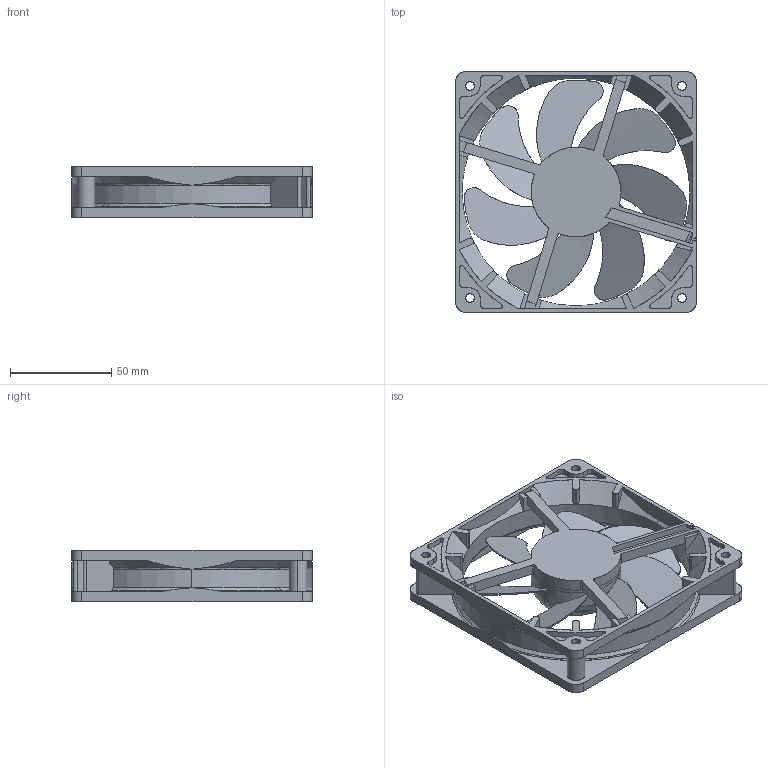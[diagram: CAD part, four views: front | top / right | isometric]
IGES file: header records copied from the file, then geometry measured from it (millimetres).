
Start section: SolidWorks IGES file using analytic representation for surfaces
Bounding box: 119 x 119 x 25.5 mm (x, y, z)
Surface area: 59178 mm2 (no closed solid volume)
Topology: 0 solids, 0 shells, 495 faces, 6144 edges, 6144 vertices
Faces by surface type: revolution 263, bspline 232
